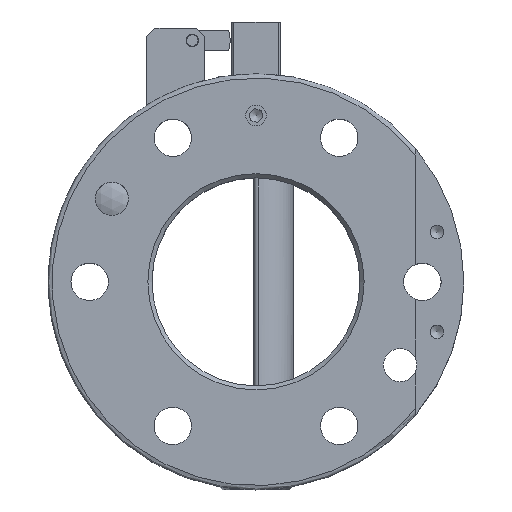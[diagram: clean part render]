
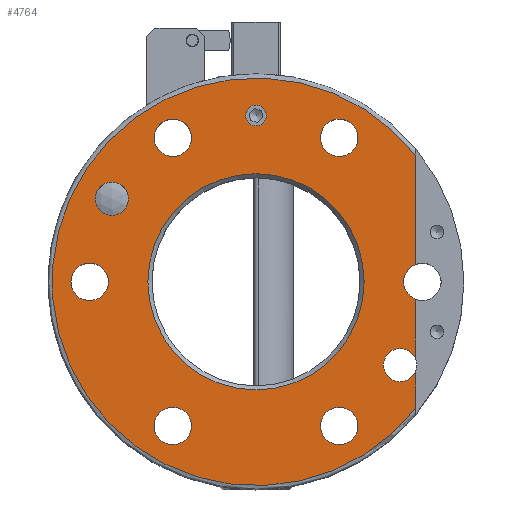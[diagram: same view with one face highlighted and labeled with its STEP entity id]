
A CAD part, top view. The second image highlights one B-rep face of the part: STEP entity #4764.
In plain terms, the highlighted planar face has unit normal (0, 0, 1).
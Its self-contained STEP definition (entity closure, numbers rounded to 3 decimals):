
#2763=CARTESIAN_POINT('',(2.459,40.0,0.0));
#2764=VERTEX_POINT('',#2763);
#2765=CARTESIAN_POINT('',(0.0,40.0,0.0));
#2766=DIRECTION('',(0.0,0.0,-1.0));
#2767=DIRECTION('',(1.0,0.0,0.0));
#2768=AXIS2_PLACEMENT_3D('',#2765,#2766,#2767);
#2769=CIRCLE('',#2768,2.459);
#2770=EDGE_CURVE('',#2764,#2764,#2769,.T.);
#4570=CARTESIAN_POINT('',(38.4,30.437,0.0));
#4571=VERTEX_POINT('',#4570);
#4586=CARTESIAN_POINT('',(38.4,-30.437,0.0));
#4587=VERTEX_POINT('',#4586);
#4601=CARTESIAN_POINT('',(0.0,0.0,0.0));
#4602=DIRECTION('',(0.0,0.0,-1.0));
#4603=DIRECTION('',(-1.0,0.0,0.0));
#4604=AXIS2_PLACEMENT_3D('',#4601,#4602,#4603);
#4605=CIRCLE('',#4604,49.0);
#4606=EDGE_CURVE('',#4587,#4571,#4605,.T.);
#4617=CARTESIAN_POINT('',(38.4,4.206,0.0));
#4618=VERTEX_POINT('',#4617);
#4619=CARTESIAN_POINT('',(38.4,4.206,0.0));
#4620=DIRECTION('',(0.0,1.0,0.0));
#4621=VECTOR('',#4620,26.232);
#4622=LINE('',#4619,#4621);
#4623=EDGE_CURVE('',#4618,#4571,#4622,.T.);
#4643=CARTESIAN_POINT('',(0.0,0.0,0.0));
#4644=DIRECTION('',(0.0,0.0,-1.0));
#4645=DIRECTION('',(-1.0,0.0,0.0));
#4646=AXIS2_PLACEMENT_3D('',#4643,#4644,#4645);
#4647=PLANE('',#4646);
#4648=ORIENTED_EDGE('',*,*,#4606,.F.);
#4649=CARTESIAN_POINT('',(38.4,-21.367,0.0));
#4650=VERTEX_POINT('',#4649);
#4651=CARTESIAN_POINT('',(38.4,-30.437,0.0));
#4652=DIRECTION('',(0.0,1.0,0.0));
#4653=VECTOR('',#4652,9.07);
#4654=LINE('',#4651,#4653);
#4655=EDGE_CURVE('',#4587,#4650,#4654,.T.);
#4656=ORIENTED_EDGE('',*,*,#4655,.T.);
#4657=CARTESIAN_POINT('',(38.4,-18.633,0.0));
#4658=VERTEX_POINT('',#4657);
#4659=CARTESIAN_POINT('',(34.641,-20.,0.0));
#4660=DIRECTION('',(0.0,0.0,-1.0));
#4661=DIRECTION('',(1.0,0.0,0.0));
#4662=AXIS2_PLACEMENT_3D('',#4659,#4660,#4661);
#4663=CIRCLE('',#4662,4.0);
#4664=EDGE_CURVE('',#4650,#4658,#4663,.T.);
#4665=ORIENTED_EDGE('',*,*,#4664,.T.);
#4666=CARTESIAN_POINT('',(38.4,-4.206,0.0));
#4667=VERTEX_POINT('',#4666);
#4668=CARTESIAN_POINT('',(38.4,-18.633,0.0));
#4669=DIRECTION('',(0.0,1.0,0.0));
#4670=VECTOR('',#4669,14.427);
#4671=LINE('',#4668,#4670);
#4672=EDGE_CURVE('',#4658,#4667,#4671,.T.);
#4673=ORIENTED_EDGE('',*,*,#4672,.T.);
#4674=CARTESIAN_POINT('',(40.,0.,0.0));
#4675=DIRECTION('',(0.0,0.0,-1.0));
#4676=DIRECTION('',(-1.0,0.0,0.0));
#4677=AXIS2_PLACEMENT_3D('',#4674,#4675,#4676);
#4678=CIRCLE('',#4677,4.5);
#4679=EDGE_CURVE('',#4667,#4618,#4678,.T.);
#4680=ORIENTED_EDGE('',*,*,#4679,.T.);
#4681=ORIENTED_EDGE('',*,*,#4623,.T.);
#4682=EDGE_LOOP('',(#4648,#4656,#4665,#4673,#4680,#4681));
#4683=FACE_OUTER_BOUND('',#4682,.T.);
#4684=CARTESIAN_POINT('',(26.0,0.,0.0));
#4685=VERTEX_POINT('',#4684);
#4686=CARTESIAN_POINT('',(0.0,0.0,0.0));
#4687=DIRECTION('',(0.0,0.0,1.0));
#4688=DIRECTION('',(-1.0,0.0,0.0));
#4689=AXIS2_PLACEMENT_3D('',#4686,#4687,#4688);
#4690=CIRCLE('',#4689,26.0);
#4691=EDGE_CURVE('',#4685,#4685,#4690,.T.);
#4692=ORIENTED_EDGE('',*,*,#4691,.F.);
#4693=EDGE_LOOP('',(#4692));
#4694=FACE_BOUND('',#4693,.T.);
#4695=ORIENTED_EDGE('',*,*,#2770,.T.);
#4696=EDGE_LOOP('',(#4695));
#4697=FACE_BOUND('',#4696,.T.);
#4698=CARTESIAN_POINT('',(-30.641,20.,0.0));
#4699=VERTEX_POINT('',#4698);
#4700=CARTESIAN_POINT('',(-34.641,20.,0.0));
#4701=DIRECTION('',(0.0,0.0,-1.0));
#4702=DIRECTION('',(1.0,0.0,0.0));
#4703=AXIS2_PLACEMENT_3D('',#4700,#4701,#4702);
#4704=CIRCLE('',#4703,4.0);
#4705=EDGE_CURVE('',#4699,#4699,#4704,.T.);
#4706=ORIENTED_EDGE('',*,*,#4705,.T.);
#4707=EDGE_LOOP('',(#4706));
#4708=FACE_BOUND('',#4707,.T.);
#4709=CARTESIAN_POINT('',(24.5,-34.641,0.0));
#4710=VERTEX_POINT('',#4709);
#4711=CARTESIAN_POINT('',(20.,-34.641,0.0));
#4712=DIRECTION('',(0.0,0.0,-1.0));
#4713=DIRECTION('',(-1.0,0.0,0.0));
#4714=AXIS2_PLACEMENT_3D('',#4711,#4712,#4713);
#4715=CIRCLE('',#4714,4.5);
#4716=EDGE_CURVE('',#4710,#4710,#4715,.T.);
#4717=ORIENTED_EDGE('',*,*,#4716,.T.);
#4718=EDGE_LOOP('',(#4717));
#4719=FACE_BOUND('',#4718,.T.);
#4720=CARTESIAN_POINT('',(-15.5,-34.641,0.0));
#4721=VERTEX_POINT('',#4720);
#4722=CARTESIAN_POINT('',(-20.,-34.641,0.0));
#4723=DIRECTION('',(0.0,0.0,-1.0));
#4724=DIRECTION('',(-1.0,0.0,0.0));
#4725=AXIS2_PLACEMENT_3D('',#4722,#4723,#4724);
#4726=CIRCLE('',#4725,4.5);
#4727=EDGE_CURVE('',#4721,#4721,#4726,.T.);
#4728=ORIENTED_EDGE('',*,*,#4727,.T.);
#4729=EDGE_LOOP('',(#4728));
#4730=FACE_BOUND('',#4729,.T.);
#4731=CARTESIAN_POINT('',(-35.5,0.,0.0));
#4732=VERTEX_POINT('',#4731);
#4733=CARTESIAN_POINT('',(-40.,0.,0.0));
#4734=DIRECTION('',(0.0,0.0,-1.0));
#4735=DIRECTION('',(-1.0,0.0,0.0));
#4736=AXIS2_PLACEMENT_3D('',#4733,#4734,#4735);
#4737=CIRCLE('',#4736,4.5);
#4738=EDGE_CURVE('',#4732,#4732,#4737,.T.);
#4739=ORIENTED_EDGE('',*,*,#4738,.T.);
#4740=EDGE_LOOP('',(#4739));
#4741=FACE_BOUND('',#4740,.T.);
#4742=CARTESIAN_POINT('',(-15.5,34.641,0.0));
#4743=VERTEX_POINT('',#4742);
#4744=CARTESIAN_POINT('',(-20.,34.641,0.0));
#4745=DIRECTION('',(0.0,0.0,-1.0));
#4746=DIRECTION('',(-1.0,0.0,0.0));
#4747=AXIS2_PLACEMENT_3D('',#4744,#4745,#4746);
#4748=CIRCLE('',#4747,4.5);
#4749=EDGE_CURVE('',#4743,#4743,#4748,.T.);
#4750=ORIENTED_EDGE('',*,*,#4749,.T.);
#4751=EDGE_LOOP('',(#4750));
#4752=FACE_BOUND('',#4751,.T.);
#4753=CARTESIAN_POINT('',(24.5,34.641,0.0));
#4754=VERTEX_POINT('',#4753);
#4755=CARTESIAN_POINT('',(20.,34.641,0.0));
#4756=DIRECTION('',(0.0,0.0,-1.0));
#4757=DIRECTION('',(-1.0,0.0,0.0));
#4758=AXIS2_PLACEMENT_3D('',#4755,#4756,#4757);
#4759=CIRCLE('',#4758,4.5);
#4760=EDGE_CURVE('',#4754,#4754,#4759,.T.);
#4761=ORIENTED_EDGE('',*,*,#4760,.T.);
#4762=EDGE_LOOP('',(#4761));
#4763=FACE_BOUND('',#4762,.T.);
#4764=ADVANCED_FACE('',(#4683,#4694,#4697,#4708,#4719,#4730,#4741,#4752,#4763),#4647,.F.);
